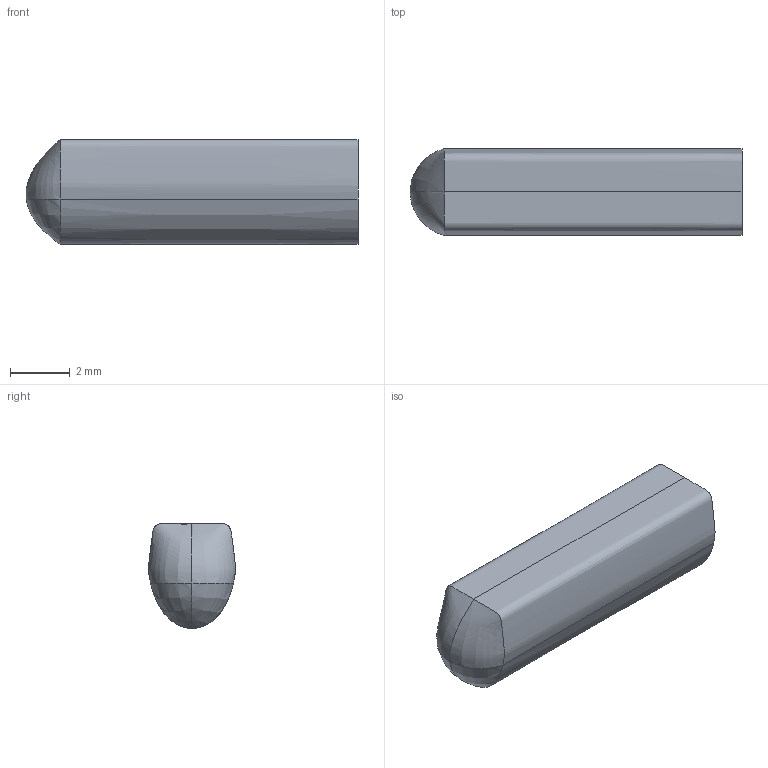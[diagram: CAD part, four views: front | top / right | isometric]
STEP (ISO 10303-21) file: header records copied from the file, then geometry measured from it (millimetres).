
FILE_DESCRIPTION((''),'2;1');
FILE_NAME('DE-TGC2','2004-11-23T',('gsawatzky'),(''),'PRO/ENGINEER BY PARAMETRIC TECHNOLOGY CORPORATION, 2002390','PRO/ENGINEER BY PARAMETRIC TECHNOLOGY CORPORATION, 2002390','');
FILE_SCHEMA(('CONFIG_CONTROL_DESIGN'));
Length unit declared in the file: millimetre
Products named in the file (1): DE-TGC2
Bounding box: 11.14 x 2.92 x 3.52 mm (x, y, z)
Surface area: 120.8 mm2 (no closed solid volume)
Topology: 0 solids, 0 shells, 8 faces, 32 edges, 28 vertices
Faces by surface type: bspline 8
Entity records: 1459 total; most frequent: CARTESIAN_POINT 1166, DIRECTION 32, VECTOR 32, LINE 32, TRIMMED_CURVE 32, DEFINITIONAL_REPRESENTATION 28, PCURVE 28, COMPOSITE_CURVE_SEGMENT 28
